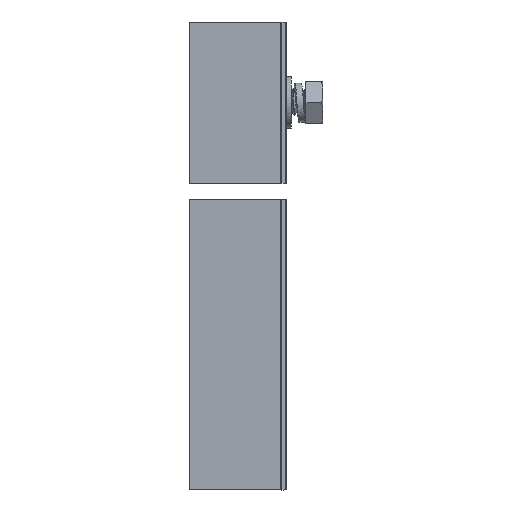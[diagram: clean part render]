
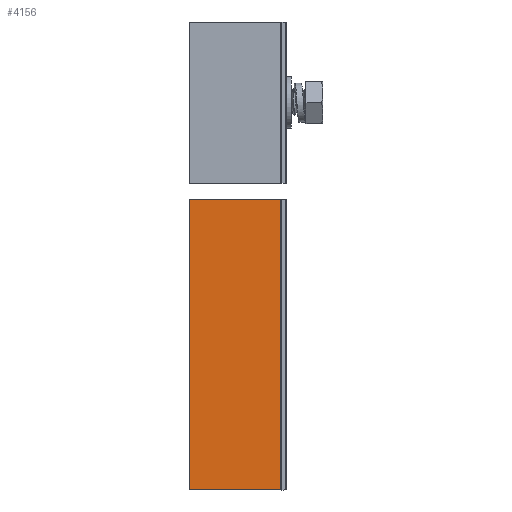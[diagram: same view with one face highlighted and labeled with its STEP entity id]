
A CAD part, left-side view. The second image highlights one B-rep face of the part: STEP entity #4156.
In plain terms, the highlighted planar face has unit normal (-1, 0, 0).
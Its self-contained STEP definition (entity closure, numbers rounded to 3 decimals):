
#106 = EDGE_CURVE ( 'NONE', #11566, #8255, #3849, .T. ) ;
#816 = EDGE_CURVE ( 'NONE', #24021, #23822, #11763, .T. ) ;
#1140 = DIRECTION ( 'NONE',  ( -1., 0., 0. ) ) ;
#1325 = PLANE ( 'NONE',  #21014 ) ;
#1512 = ORIENTED_EDGE ( 'NONE', *, *, #106, .T. ) ;
#2137 = DIRECTION ( 'NONE',  ( 0., -1., 0. ) ) ;
#3849 = LINE ( 'NONE', #21066, #26028 ) ;
#4156 = ADVANCED_FACE ( 'NONE', ( #10088 ), #1325, .T. ) ;
#4313 = CARTESIAN_POINT ( 'NONE',  ( -22., -43.4, 0. ) ) ;
#4400 = DIRECTION ( 'NONE',  ( 0., -1., 0. ) ) ;
#4600 = CARTESIAN_POINT ( 'NONE',  ( -22., -60.193, 90. ) ) ;
#4797 = LINE ( 'NONE', #4313, #14144 ) ;
#6079 = VECTOR ( 'NONE', #18276, 1000. ) ;
#7895 = ORIENTED_EDGE ( 'NONE', *, *, #20932, .T. ) ;
#8255 = VERTEX_POINT ( 'NONE', #11434 ) ;
#10088 = FACE_OUTER_BOUND ( 'NONE', #21052, .T. ) ;
#11434 = CARTESIAN_POINT ( 'NONE',  ( -22., -31.9, 0. ) ) ;
#11566 = VERTEX_POINT ( 'NONE', #12592 ) ;
#11763 = LINE ( 'NONE', #13928, #6079 ) ;
#12592 = CARTESIAN_POINT ( 'NONE',  ( -22., -31.9, 90. ) ) ;
#13874 = DIRECTION ( 'NONE',  ( 0., 0., -1. ) ) ;
#13928 = CARTESIAN_POINT ( 'NONE',  ( -22., -60.193, 0. ) ) ;
#14144 = VECTOR ( 'NONE', #4400, 1000. ) ;
#14624 = DIRECTION ( 'NONE',  ( 0., 0., -1. ) ) ;
#16049 = ORIENTED_EDGE ( 'NONE', *, *, #18727, .F. ) ;
#17066 = CARTESIAN_POINT ( 'NONE',  ( -22., -19.9, 90. ) ) ;
#18276 = DIRECTION ( 'NONE',  ( 0., 0., 1. ) ) ;
#18727 = EDGE_CURVE ( 'NONE', #11566, #23822, #22964, .T. ) ;
#20932 = EDGE_CURVE ( 'NONE', #8255, #24021, #4797, .T. ) ;
#21014 = AXIS2_PLACEMENT_3D ( 'NONE', #26865, #1140, #13874 ) ;
#21052 = EDGE_LOOP ( 'NONE', ( #16049, #1512, #7895, #24360 ) ) ;
#21066 = CARTESIAN_POINT ( 'NONE',  ( -22., -31.9, 0. ) ) ;
#22964 = LINE ( 'NONE', #17066, #24952 ) ;
#23822 = VERTEX_POINT ( 'NONE', #4600 ) ;
#24021 = VERTEX_POINT ( 'NONE', #26456 ) ;
#24360 = ORIENTED_EDGE ( 'NONE', *, *, #816, .T. ) ;
#24952 = VECTOR ( 'NONE', #2137, 1000. ) ;
#26028 = VECTOR ( 'NONE', #14624, 1000. ) ;
#26456 = CARTESIAN_POINT ( 'NONE',  ( -22., -60.193, 0. ) ) ;
#26865 = CARTESIAN_POINT ( 'NONE',  ( -22., -61.9, 0. ) ) ;
